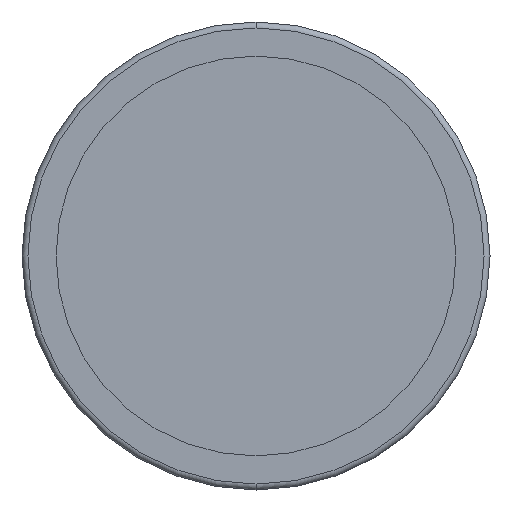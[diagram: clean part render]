
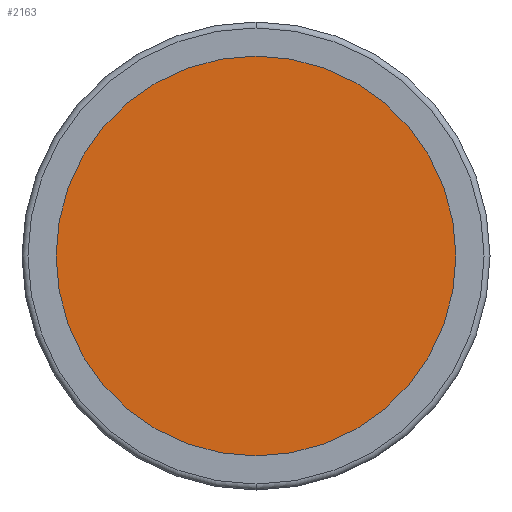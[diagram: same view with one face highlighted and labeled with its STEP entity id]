
A CAD part, front view. The second image highlights one B-rep face of the part: STEP entity #2163.
In plain terms, the highlighted planar face has unit normal (0, -1, 0).
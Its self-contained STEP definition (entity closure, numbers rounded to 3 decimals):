
#227 = CIRCLE ( 'NONE', #2244, 33.75 ) ;
#320 = DIRECTION ( 'NONE',  ( 0., 1., 0. ) ) ;
#434 = EDGE_CURVE ( 'NONE', #1689, #2243, #227, .T. ) ;
#463 = DIRECTION ( 'NONE',  ( 0., 1., 0. ) ) ;
#482 = CARTESIAN_POINT ( 'NONE',  ( 0., -2., 33.75 ) ) ;
#573 = CIRCLE ( 'NONE', #2046, 33.75 ) ;
#628 = DIRECTION ( 'NONE',  ( 0., 0., -1. ) ) ;
#666 = EDGE_CURVE ( 'NONE', #2243, #1689, #573, .T. ) ;
#769 = ORIENTED_EDGE ( 'NONE', *, *, #434, .F. ) ;
#942 = EDGE_LOOP ( 'NONE', ( #1392, #769 ) ) ;
#1040 = CARTESIAN_POINT ( 'NONE',  ( 0., -2., -33.75 ) ) ;
#1069 = DIRECTION ( 'NONE',  ( 0., 0., 1. ) ) ;
#1367 = PLANE ( 'NONE',  #1600 ) ;
#1392 = ORIENTED_EDGE ( 'NONE', *, *, #666, .F. ) ;
#1570 = CARTESIAN_POINT ( 'NONE',  ( 0., -2., 0. ) ) ;
#1600 = AXIS2_PLACEMENT_3D ( 'NONE', #2129, #2328, #628 ) ;
#1689 = VERTEX_POINT ( 'NONE', #1040 ) ;
#1761 = DIRECTION ( 'NONE',  ( 0., 0., 1. ) ) ;
#2001 = CARTESIAN_POINT ( 'NONE',  ( 0., -2., 0. ) ) ;
#2046 = AXIS2_PLACEMENT_3D ( 'NONE', #1570, #463, #1761 ) ;
#2077 = FACE_OUTER_BOUND ( 'NONE', #942, .T. ) ;
#2129 = CARTESIAN_POINT ( 'NONE',  ( -33.75, -2., 0. ) ) ;
#2163 = ADVANCED_FACE ( 'NONE', ( #2077 ), #1367, .T. ) ;
#2243 = VERTEX_POINT ( 'NONE', #482 ) ;
#2244 = AXIS2_PLACEMENT_3D ( 'NONE', #2001, #320, #1069 ) ;
#2328 = DIRECTION ( 'NONE',  ( 0., -1., 0. ) ) ;
